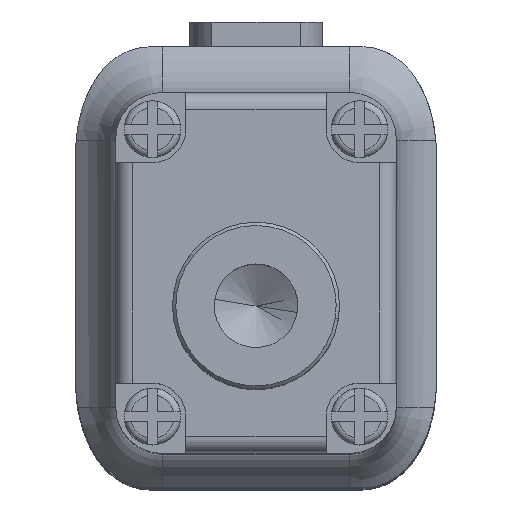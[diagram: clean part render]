
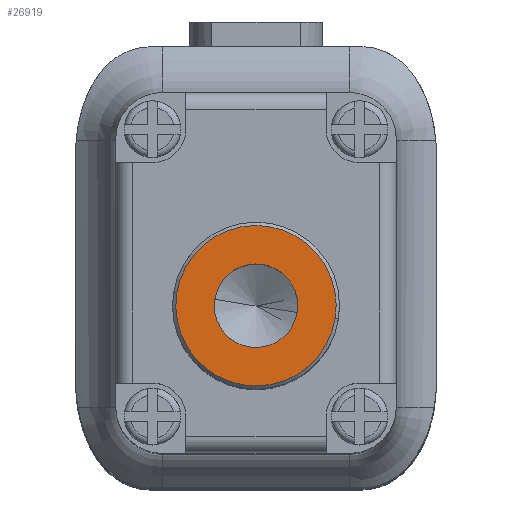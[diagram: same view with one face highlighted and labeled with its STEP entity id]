
A CAD part, top view. The second image highlights one B-rep face of the part: STEP entity #26919.
In plain terms, the highlighted planar face has unit normal (0, 0, 1) as drawn and (0, 0, -1) by its records, which use the part's own axes.
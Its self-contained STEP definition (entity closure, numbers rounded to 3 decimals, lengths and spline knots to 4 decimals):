
#1903 = EDGE_LOOP ( 'NONE', ( #51195, #27358 ) ) ;
#2355 = DIRECTION ( 'NONE',  ( 0., 0., -1. ) ) ;
#4925 = VERTEX_POINT ( 'NONE', #24747 ) ;
#9100 = FACE_OUTER_BOUND ( 'NONE', #1903, .T. ) ;
#9599 = CARTESIAN_POINT ( 'NONE',  ( 0., 0., 0. ) ) ;
#11356 = CARTESIAN_POINT ( 'NONE',  ( 0., 0., 0. ) ) ;
#13457 = FACE_BOUND ( 'NONE', #20332, .T. ) ;
#14321 = CARTESIAN_POINT ( 'NONE',  ( 0., 0., 0. ) ) ;
#14694 = EDGE_CURVE ( 'NONE', #21265, #4925, #48473, .T. ) ;
#16730 = CIRCLE ( 'NONE', #25097, 1.25 ) ;
#20332 = EDGE_LOOP ( 'NONE', ( #37543, #48283 ) ) ;
#20803 = CARTESIAN_POINT ( 'NONE',  ( 2.4, 0., 0. ) ) ;
#21265 = VERTEX_POINT ( 'NONE', #20803 ) ;
#22073 = DIRECTION ( 'NONE',  ( 1., 0., 0. ) ) ;
#22570 = AXIS2_PLACEMENT_3D ( 'NONE', #11356, #29029, #27756 ) ;
#24747 = CARTESIAN_POINT ( 'NONE',  ( -2.4, 0., 0. ) ) ;
#25097 = AXIS2_PLACEMENT_3D ( 'NONE', #46084, #2355, #54500 ) ;
#25887 = CIRCLE ( 'NONE', #56390, 1.25 ) ;
#26696 = DIRECTION ( 'NONE',  ( 0., 0., -1. ) ) ;
#26919 = ADVANCED_FACE ( 'NONE', ( #9100, #13457 ), #27086, .F. ) ;
#27086 = PLANE ( 'NONE',  #31306 ) ;
#27358 = ORIENTED_EDGE ( 'NONE', *, *, #51810, .T. ) ;
#27756 = DIRECTION ( 'NONE',  ( 1., 0., 0. ) ) ;
#29029 = DIRECTION ( 'NONE',  ( 0., 0., -1. ) ) ;
#29492 = CARTESIAN_POINT ( 'NONE',  ( -1.25, 0., 0. ) ) ;
#30748 = VERTEX_POINT ( 'NONE', #29492 ) ;
#31306 = AXIS2_PLACEMENT_3D ( 'NONE', #14321, #48786, #45320 ) ;
#31815 = CARTESIAN_POINT ( 'NONE',  ( 1.25, 0., 0. ) ) ;
#34891 = DIRECTION ( 'NONE',  ( -1., 0., 0. ) ) ;
#36074 = AXIS2_PLACEMENT_3D ( 'NONE', #9599, #26696, #22073 ) ;
#37543 = ORIENTED_EDGE ( 'NONE', *, *, #53115, .F. ) ;
#38521 = VERTEX_POINT ( 'NONE', #31815 ) ;
#38861 = CIRCLE ( 'NONE', #36074, 2.4 ) ;
#45320 = DIRECTION ( 'NONE',  ( 1., 0., 0. ) ) ;
#46084 = CARTESIAN_POINT ( 'NONE',  ( 0., 0., 0. ) ) ;
#48283 = ORIENTED_EDGE ( 'NONE', *, *, #51337, .F. ) ;
#48473 = CIRCLE ( 'NONE', #22570, 2.4 ) ;
#48786 = DIRECTION ( 'NONE',  ( 0., 0., 1. ) ) ;
#51195 = ORIENTED_EDGE ( 'NONE', *, *, #14694, .T. ) ;
#51337 = EDGE_CURVE ( 'NONE', #38521, #30748, #25887, .T. ) ;
#51410 = DIRECTION ( 'NONE',  ( 0., 0., -1. ) ) ;
#51810 = EDGE_CURVE ( 'NONE', #4925, #21265, #38861, .T. ) ;
#53115 = EDGE_CURVE ( 'NONE', #30748, #38521, #16730, .T. ) ;
#54500 = DIRECTION ( 'NONE',  ( -1., 0., 0. ) ) ;
#56390 = AXIS2_PLACEMENT_3D ( 'NONE', #56921, #51410, #34891 ) ;
#56921 = CARTESIAN_POINT ( 'NONE',  ( 0., 0., 0. ) ) ;
